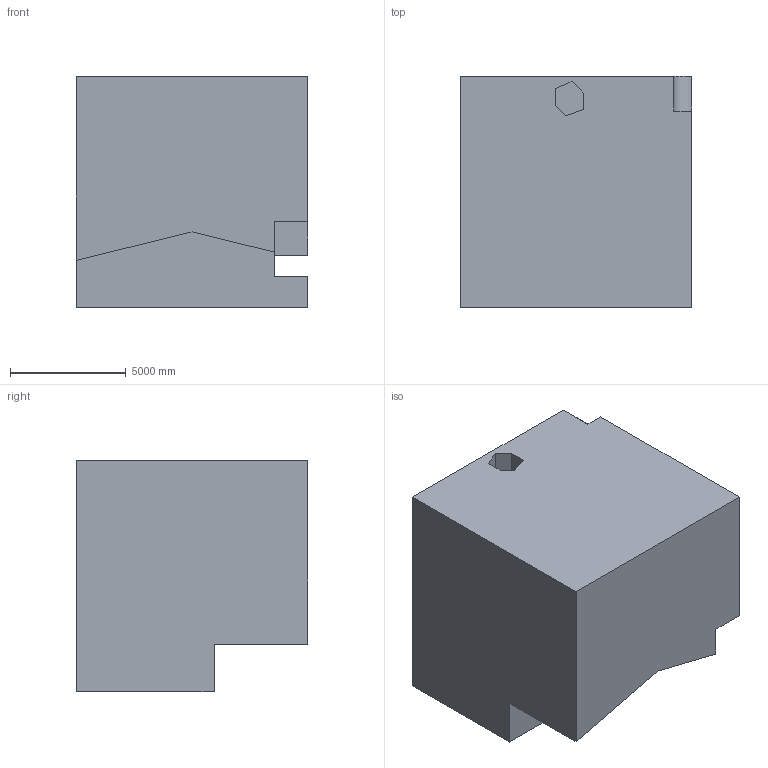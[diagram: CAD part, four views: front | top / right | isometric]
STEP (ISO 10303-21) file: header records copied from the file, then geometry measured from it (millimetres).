
FILE_DESCRIPTION (( 'STEP AP203' ), '1' );
FILE_NAME ('67.STEP', '2022-09-02T13:58:33', ( 'user' ), ( '' ), 'SwSTEP 2.0', 'SolidWorks 2021', '' );
FILE_SCHEMA (( 'CONFIG_CONTROL_DESIGN' ));
Length unit declared in the file: centimetre
Products named in the file (1): 67
Bounding box: 10000 x 10000 x 10000 mm (x, y, z)
Volume: 794648140736 mm3; surface area: 614533320.7 mm2
Topology: 1 solids, 1 shells, 35 faces, 93 edges, 62 vertices
Faces by surface type: plane 33, cylinder 2
Entity records: 1149 total; most frequent: CARTESIAN_POINT 191, ORIENTED_EDGE 186, DIRECTION 170, EDGE_CURVE 93, LINE 88, VECTOR 88, VERTEX_POINT 62, AXIS2_PLACEMENT_3D 41
